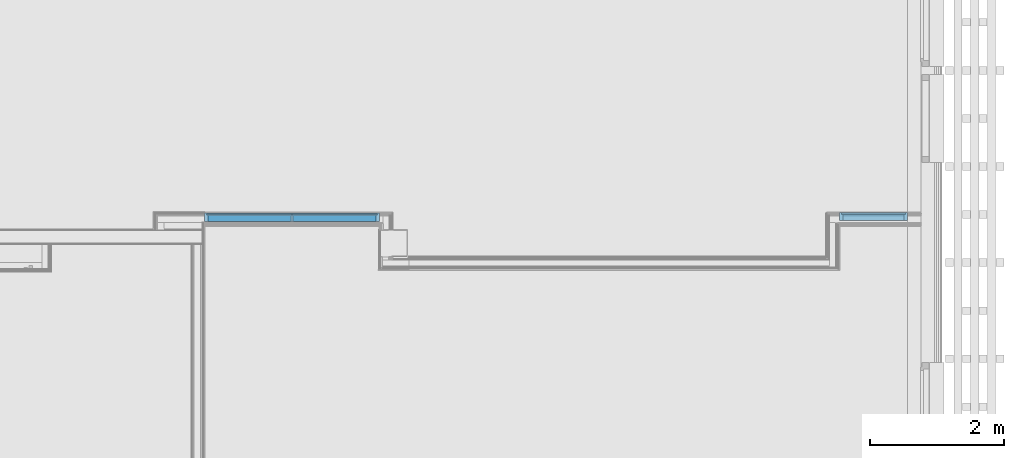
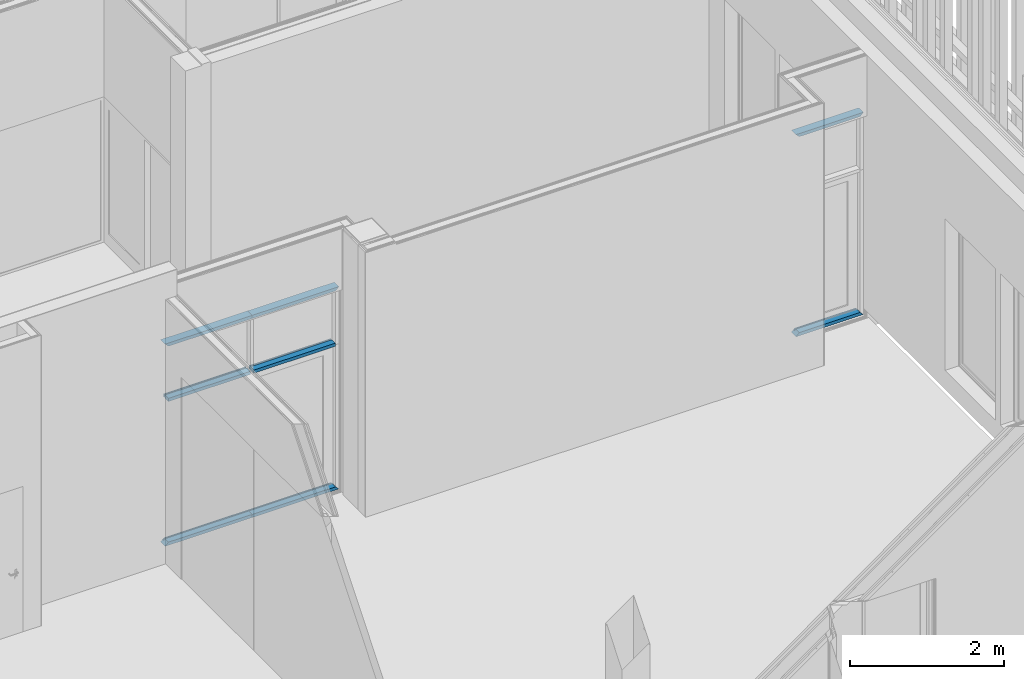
# One storey, part 89 of 260: 8 members, 2 elements without a shape of their own.
"""IFC2X3 building model written with IfcOpenShell, lengths in millimetres."""

from ifc_helpers import new_model, entity, si_unit, converted_unit, derived_unit, money_unit, direction, frame, origin_with_axes, place, context, subcontext, project, spatial, faceted_brep, material, type_object, element, aggregate, save


model = new_model("IFC2X3")

# Units and contexts
model_context = context("Model", 3, precision=0.01, world=origin_with_axes(), true_north=direction((0.0, 1.0)))
body_context = subcontext(model_context, "Body", "Model", "MODEL_VIEW")
ifc_project = project(units=[si_unit("LENGTHUNIT", "METRE", prefix="MILLI"), si_unit("AREAUNIT", "SQUARE_METRE"), si_unit("VOLUMEUNIT", "CUBIC_METRE"), converted_unit("PLANEANGLEUNIT", "DEGREE", entity("IfcPlaneAngleMeasure", 0.0174532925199), si_unit("PLANEANGLEUNIT", "RADIAN"), dimensions=[0, 0, 0, 0, 0, 0, 0]), money_unit("EUR"), converted_unit("TIMEUNIT", "Year", entity("IfcTimeMeasure", 31556926.0), si_unit("TIMEUNIT", "SECOND"), dimensions=[0, 0, 1, 0, 0, 0, 0]), si_unit("MASSUNIT", "GRAM", prefix="KILO"), si_unit("THERMODYNAMICTEMPERATUREUNIT", "DEGREE_CELSIUS"), si_unit("LUMINOUSINTENSITYUNIT", "LUMEN"), si_unit("ENERGYUNIT", "JOULE", prefix="MEGA"), derived_unit("THERMALCONDUCTANCEUNIT", [(si_unit("POWERUNIT", "WATT"), 1), (si_unit("LENGTHUNIT", "METRE"), -1), (si_unit("THERMODYNAMICTEMPERATUREUNIT", "KELVIN"), -1)]), derived_unit("SPECIFICHEATCAPACITYUNIT", [(si_unit("ENERGYUNIT", "JOULE"), 1), (si_unit("MASSUNIT", "GRAM", prefix="KILO"), -1), (si_unit("THERMODYNAMICTEMPERATUREUNIT", "KELVIN"), -1)]), derived_unit("MASSDENSITYUNIT", [(si_unit("MASSUNIT", "GRAM", prefix="KILO"), 1), (si_unit("VOLUMEUNIT", "CUBIC_METRE"), -1)])], contexts=[model_context])

# Site, building, storey
site_placement = place(None, origin_with_axes())
site = spatial("IfcSite", under=ifc_project, at=site_placement, Name="Kolde pst 67a", CompositionType="ELEMENT")
building_placement = place(site_placement, origin_with_axes())
building = spatial("IfcBuilding", under=site, at=building_placement, Name="Riigigümnaasium", CompositionType="ELEMENT")
storey_placement = place(building_placement, origin_with_axes())
storey = spatial("IfcBuildingStorey", under=building, at=storey_placement, Name="1. korrus", CompositionType="ELEMENT", Elevation=0.0)

# Curtain wall, members
curtain_wall_type = type_object("IfcCurtainWallType", Name="Curtain Wall Type", PredefinedType="NOTDEFINED")
curtain_wall_1_placement = place(storey_placement, frame((75080.0012187, 24675.0981117, -4.39663905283e-06), z_axis=(0.0, 0.0, 1.0), x_axis=(1.0, 0.0, 0.0)))
curtain_wall_1 = element("IfcCurtainWall", 1, at=curtain_wall_1_placement, inside=storey, type_object=curtain_wall_type, Name="KLAASSEIN")
ifc_material = material(Name="_METALL - alumiinium")
member_type_1 = type_object("IfcMemberType", Name="Boundary Frame 50 x 120", PredefinedType="MEMBER")
member_1_placement = place(curtain_wall_1_placement, frame((1300.00084434, 0.0, 0.0), z_axis=(-1.0, 0.0, 0.0), x_axis=(0.0, 0.0, 1.0)))
member_1 = element("IfcMember", 2, at=member_1_placement, type_object=member_type_1, material=ifc_material, Name="RF RAAM SERV-097", ObjectType="MEMBER", context=body_context, shape_type="Brep", body=[
    faceted_brep([(30.0, 10.0, 30.0), (30.0, 10.0, 1300.0), (30.0, -10.0, 1300.0), (30.0, -10.0, 30.0), (20.0, 10.0, 20.0), (20.0, 10.0, 1300.0), (20.0, -10.0, 1300.0), (20.0, -10.0, 20.0)], [[[0, 1, 2, 3]], [[4, 5, 1, 0]], [[2, 1, 5, 6]], [[3, 2, 6, 7]], [[3, 7, 4, 0]], [[7, 6, 5, 4]]]),
    faceted_brep([(20.0, 10.0, 20.0), (20.0, 10.0, 1300.0), (20.0, -10.0, 1300.0), (20.0, -10.0, 20.0), (0.0, 10.0, 0.0), (0.0, 10.0, 1300.0), (0.0, -10.0, 1300.0), (0.0, -10.0, 0.0)], [[[0, 1, 2, 3]], [[4, 5, 1, 0]], [[2, 1, 5, 6]], [[3, 2, 6, 7]], [[3, 7, 4, 0]], [[7, 6, 5, 4]]]),
    faceted_brep([(50.0, -10.0, 50.0), (50.0, -10.0, 1300.0), (50.0, -100.0, 1300.0), (50.0, -100.0, 50.0), (0.0, -10.0, 0.0), (0.0, -10.0, 1300.0), (0.0, -100.0, 1300.0), (0.0, -100.0, 0.0)], [[[0, 1, 2, 3]], [[4, 5, 1, 0]], [[2, 1, 5, 6]], [[3, 2, 6, 7]], [[3, 7, 4, 0]], [[7, 6, 5, 4]]]),
    faceted_brep([(0.0, 10.0, 0.0), (0.0, 10.0, 1300.0), (0.0, 20.0, 1300.0), (0.0, 20.0, 0.0), (50.0, 10.0, 50.0), (50.0, 10.0, 1300.0), (50.0, 20.0, 1300.0), (50.0, 20.0, 50.0)], [[[0, 1, 2, 3]], [[4, 5, 1, 0]], [[2, 1, 5, 6]], [[3, 2, 6, 7]], [[3, 7, 4, 0]], [[7, 6, 5, 4]]]),
])
member_2_placement = place(curtain_wall_1_placement, frame((0.000844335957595, 0.0, 0.0), z_axis=(-1.0, 0.0, 0.0), x_axis=(0.0, 0.0, 1.0)))
member_2 = element("IfcMember", 3, at=member_2_placement, type_object=member_type_1, material=ifc_material, Name="RF RAAM SERV-098", ObjectType="MEMBER", context=body_context, shape_type="Brep", body=[
    faceted_brep([(30.0, -10.0, 0.0), (30.0, 10.0, 0.0), (30.0, 10.0, 1270.00253301), (30.0, -10.0, 1270.00253301), (20.0, -10.0, 0.0), (20.0, 10.0, 0.0), (20.0, 10.0, 1280.00253301), (20.0, -10.0, 1280.00253301)], [[[0, 1, 2, 3]], [[0, 4, 5, 1]], [[1, 5, 6, 2]], [[3, 2, 6, 7]], [[4, 0, 3, 7]], [[5, 4, 7, 6]]]),
    faceted_brep([(20.0, -10.0, 0.0), (20.0, 10.0, 0.0), (20.0, 10.0, 1280.00253301), (20.0, -10.0, 1280.00253301), (0.0, -10.0, 0.0), (0.0, 10.0, 0.0), (0.0, 10.0, 1300.00253301), (0.0, -10.0, 1300.00253301)], [[[0, 1, 2, 3]], [[0, 4, 5, 1]], [[1, 5, 6, 2]], [[3, 2, 6, 7]], [[4, 0, 3, 7]], [[5, 4, 7, 6]]]),
    faceted_brep([(50.0, -100.0, 0.0), (50.0, -10.0, 0.0), (50.0, -10.0, 1250.00253301), (50.0, -100.0, 1250.00253301), (0.0, -100.0, 0.0), (0.0, -10.0, 0.0), (0.0, -10.0, 1300.00253301), (0.0, -100.0, 1300.00253301)], [[[0, 1, 2, 3]], [[0, 4, 5, 1]], [[1, 5, 6, 2]], [[3, 2, 6, 7]], [[4, 0, 3, 7]], [[5, 4, 7, 6]]]),
    faceted_brep([(0.0, 20.0, 0.0), (0.0, 10.0, 0.0), (0.0, 10.0, 1300.00253301), (0.0, 20.0, 1300.00253301), (50.0, 20.0, 0.0), (50.0, 10.0, 0.0), (50.0, 10.0, 1250.00253301), (50.0, 20.0, 1250.00253301)], [[[0, 1, 2, 3]], [[0, 4, 5, 1]], [[1, 5, 6, 2]], [[3, 2, 6, 7]], [[4, 0, 3, 7]], [[5, 4, 7, 6]]]),
])
member_3_placement = place(curtain_wall_1_placement, frame((0.000844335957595, 0.0, 3199.99999078), z_axis=(-1.0, 0.0, 0.0), x_axis=(0.0, 0.0, 1.0)))
member_3 = element("IfcMember", 4, at=member_3_placement, type_object=member_type_1, material=ifc_material, Name="RF RAAM SERV-101", ObjectType="MEMBER", context=body_context, shape_type="Brep", body=[
    faceted_brep([(-30.0, -10.0, 0.0), (-30.0, -10.0, 1270.00253301), (-30.0, 10.0, 1270.00253301), (-30.0, 10.0, 0.0), (-20.0, -10.0, 0.0), (-20.0, -10.0, 1280.00253301), (-20.0, 10.0, 1280.00253301), (-20.0, 10.0, 0.0)], [[[0, 1, 2, 3]], [[4, 5, 1, 0]], [[1, 5, 6, 2]], [[3, 2, 6, 7]], [[0, 3, 7, 4]], [[7, 6, 5, 4]]]),
    faceted_brep([(-20.0, -10.0, 0.0), (-20.0, -10.0, 1280.00253301), (-20.0, 10.0, 1280.00253301), (-20.0, 10.0, 0.0), (0.0, -10.0, 0.0), (0.0, -10.0, 1300.00253301), (0.0, 10.0, 1300.00253301), (0.0, 10.0, 0.0)], [[[0, 1, 2, 3]], [[4, 5, 1, 0]], [[1, 5, 6, 2]], [[3, 2, 6, 7]], [[0, 3, 7, 4]], [[7, 6, 5, 4]]]),
    faceted_brep([(-50.0, -100.0, 0.0), (-50.0, -100.0, 1250.00253301), (-50.0, -10.0, 1250.00253301), (-50.0, -10.0, 0.0), (0.0, -100.0, 0.0), (0.0, -100.0, 1300.00253301), (0.0, -10.0, 1300.00253301), (0.0, -10.0, 0.0)], [[[0, 1, 2, 3]], [[4, 5, 1, 0]], [[1, 5, 6, 2]], [[3, 2, 6, 7]], [[0, 3, 7, 4]], [[7, 6, 5, 4]]]),
    faceted_brep([(0.0, 20.0, 0.0), (0.0, 20.0, 1300.00253301), (0.0, 10.0, 1300.00253301), (0.0, 10.0, 0.0), (-50.0, 20.0, 0.0), (-50.0, 20.0, 1250.00253301), (-50.0, 10.0, 1250.00253301), (-50.0, 10.0, 0.0)], [[[0, 1, 2, 3]], [[4, 5, 1, 0]], [[1, 5, 6, 2]], [[3, 2, 6, 7]], [[0, 3, 7, 4]], [[7, 6, 5, 4]]]),
])
member_4_placement = place(curtain_wall_1_placement, frame((1300.00084434, 0.0, 3199.99999078), z_axis=(-1.0, 0.0, 0.0), x_axis=(0.0, 0.0, 1.0)))
member_4 = element("IfcMember", 5, at=member_4_placement, type_object=member_type_1, material=ifc_material, Name="RF RAAM SERV-102", ObjectType="MEMBER", context=body_context, shape_type="Brep", body=[
    faceted_brep([(-30.0, 10.0, 30.0), (-30.0, -10.0, 30.0), (-30.0, -10.0, 1300.0), (-30.0, 10.0, 1300.0), (-20.0, 10.0, 20.0), (-20.0, -10.0, 20.0), (-20.0, -10.0, 1300.0), (-20.0, 10.0, 1300.0)], [[[0, 1, 2, 3]], [[1, 0, 4, 5]], [[1, 5, 6, 2]], [[2, 6, 7, 3]], [[4, 0, 3, 7]], [[5, 4, 7, 6]]]),
    faceted_brep([(-20.0, 10.0, 20.0), (-20.0, -10.0, 20.0), (-20.0, -10.0, 1300.0), (-20.0, 10.0, 1300.0), (0.0, 10.0, 0.0), (0.0, -10.0, 0.0), (0.0, -10.0, 1300.0), (0.0, 10.0, 1300.0)], [[[0, 1, 2, 3]], [[1, 0, 4, 5]], [[1, 5, 6, 2]], [[2, 6, 7, 3]], [[4, 0, 3, 7]], [[5, 4, 7, 6]]]),
    faceted_brep([(-50.0, -10.0, 50.0), (-50.0, -100.0, 50.0), (-50.0, -100.0, 1300.0), (-50.0, -10.0, 1300.0), (0.0, -10.0, 0.0), (0.0, -100.0, 0.0), (0.0, -100.0, 1300.0), (0.0, -10.0, 1300.0)], [[[0, 1, 2, 3]], [[1, 0, 4, 5]], [[1, 5, 6, 2]], [[2, 6, 7, 3]], [[4, 0, 3, 7]], [[5, 4, 7, 6]]]),
    faceted_brep([(0.0, 10.0, 0.0), (0.0, 20.0, 0.0), (0.0, 20.0, 1300.0), (0.0, 10.0, 1300.0), (-50.0, 10.0, 50.0), (-50.0, 20.0, 50.0), (-50.0, 20.0, 1300.0), (-50.0, 10.0, 1300.0)], [[[0, 1, 2, 3]], [[1, 0, 4, 5]], [[1, 5, 6, 2]], [[2, 6, 7, 3]], [[4, 0, 3, 7]], [[5, 4, 7, 6]]]),
])

curtain_wall_2_placement = place(storey_placement, frame((83735.0006955, 24688.0768619, -4.19329628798e-05), z_axis=(0.0, 0.0, 1.0), x_axis=(1.0, 0.0, 0.0)))
curtain_wall_2 = element("IfcCurtainWall", 6, at=curtain_wall_2_placement, inside=storey, type_object=curtain_wall_type, Name="KLAASSEIN")
member_5_placement = place(curtain_wall_2_placement, frame((504.998632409, 0.0, 3.7536323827e-05), z_axis=(-1.0, 0.0, 0.0), x_axis=(0.0, 0.0, 1.0)))
member_5 = element("IfcMember", 7, at=member_5_placement, type_object=member_type_1, material=ifc_material, Name="RF RAAM SERV-097", ObjectType="MEMBER", context=body_context, shape_type="Brep", body=[
    faceted_brep([(30.0, 10.0, 30.0), (30.0, 10.0, 979.997264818), (30.0, -10.0, 979.997264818), (30.0, -10.0, 30.0), (20.0, 10.0, 20.0), (20.0, 10.0, 989.997264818), (20.0, -10.0, 989.997264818), (20.0, -10.0, 20.0)], [[[0, 1, 2, 3]], [[4, 5, 1, 0]], [[2, 1, 5, 6]], [[3, 2, 6, 7]], [[3, 7, 4, 0]], [[7, 6, 5, 4]]]),
    faceted_brep([(20.0, 10.0, 20.0), (20.0, 10.0, 989.997264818), (20.0, -10.0, 989.997264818), (20.0, -10.0, 20.0), (0.0, 10.0, 0.0), (0.0, 10.0, 1009.99726482), (0.0, -10.0, 1009.99726482), (0.0, -10.0, 0.0)], [[[0, 1, 2, 3]], [[4, 5, 1, 0]], [[2, 1, 5, 6]], [[3, 2, 6, 7]], [[3, 7, 4, 0]], [[7, 6, 5, 4]]]),
    faceted_brep([(50.0, -10.0, 50.0), (50.0, -10.0, 959.997264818), (50.0, -100.0, 959.997264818), (50.0, -100.0, 50.0), (0.0, -10.0, 0.0), (0.0, -10.0, 1009.99726482), (0.0, -100.0, 1009.99726482), (0.0, -100.0, 0.0)], [[[0, 1, 2, 3]], [[4, 5, 1, 0]], [[2, 1, 5, 6]], [[3, 2, 6, 7]], [[3, 7, 4, 0]], [[7, 6, 5, 4]]]),
    faceted_brep([(0.0, 10.0, 0.0), (0.0, 10.0, 1009.99726482), (0.0, 20.0, 1009.99726482), (0.0, 20.0, 0.0), (50.0, 10.0, 50.0), (50.0, 10.0, 959.997264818), (50.0, 20.0, 959.997264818), (50.0, 20.0, 50.0)], [[[0, 1, 2, 3]], [[4, 5, 1, 0]], [[2, 1, 5, 6]], [[3, 2, 6, 7]], [[3, 7, 4, 0]], [[7, 6, 5, 4]]]),
])
member_6_placement = place(curtain_wall_2_placement, frame((504.998632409, 0.0, 3200.00002831), z_axis=(-1.0, 0.0, 0.0), x_axis=(0.0, 0.0, 1.0)))
member_6 = element("IfcMember", 8, at=member_6_placement, type_object=member_type_1, material=ifc_material, Name="RF RAAM SERV-100", ObjectType="MEMBER", context=body_context, shape_type="Brep", body=[
    faceted_brep([(-30.0, 10.0, 30.0), (-30.0, -10.0, 30.0), (-30.0, -10.0, 979.997264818), (-30.0, 10.0, 979.997264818), (-20.0, 10.0, 20.0), (-20.0, -10.0, 20.0), (-20.0, -10.0, 989.997264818), (-20.0, 10.0, 989.997264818)], [[[0, 1, 2, 3]], [[1, 0, 4, 5]], [[1, 5, 6, 2]], [[2, 6, 7, 3]], [[4, 0, 3, 7]], [[5, 4, 7, 6]]]),
    faceted_brep([(-20.0, 10.0, 20.0), (-20.0, -10.0, 20.0), (-20.0, -10.0, 989.997264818), (-20.0, 10.0, 989.997264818), (0.0, 10.0, 0.0), (0.0, -10.0, 0.0), (0.0, -10.0, 1009.99726482), (0.0, 10.0, 1009.99726482)], [[[0, 1, 2, 3]], [[1, 0, 4, 5]], [[1, 5, 6, 2]], [[2, 6, 7, 3]], [[4, 0, 3, 7]], [[5, 4, 7, 6]]]),
    faceted_brep([(-50.0, -10.0, 50.0), (-50.0, -100.0, 50.0), (-50.0, -100.0, 959.997264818), (-50.0, -10.0, 959.997264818), (0.0, -10.0, 0.0), (0.0, -100.0, 0.0), (0.0, -100.0, 1009.99726482), (0.0, -10.0, 1009.99726482)], [[[0, 1, 2, 3]], [[1, 0, 4, 5]], [[1, 5, 6, 2]], [[2, 6, 7, 3]], [[4, 0, 3, 7]], [[5, 4, 7, 6]]]),
    faceted_brep([(0.0, 10.0, 0.0), (0.0, 20.0, 0.0), (0.0, 20.0, 1009.99726482), (0.0, 10.0, 1009.99726482), (-50.0, 10.0, 50.0), (-50.0, 20.0, 50.0), (-50.0, 20.0, 959.997264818), (-50.0, 10.0, 959.997264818)], [[[0, 1, 2, 3]], [[1, 0, 4, 5]], [[1, 5, 6, 2]], [[2, 6, 7, 3]], [[4, 0, 3, 7]], [[5, 4, 7, 6]]]),
])
aggregate(curtain_wall_2, [member_5, member_6])

# Member
member_type_2 = type_object("IfcMemberType", Name="Transom Frame 50 x 125", PredefinedType="MEMBER")
member_7_placement = place(curtain_wall_1_placement, frame((1300.00084434, 0.0, 2300.0), z_axis=(-1.0, 0.0, 0.0), x_axis=(0.0, 0.0, 1.0)))
member_7 = element("IfcMember", 9, at=member_7_placement, type_object=member_type_2, material=ifc_material, Name="RF RAAM HOR-405", ObjectType="MEMBER", context=body_context, shape_type="Brep", body=[
    faceted_brep([(5.0, 10.0, 50.0), (5.0, 10.0, 1275.0), (5.0, -10.0, 1275.0), (5.0, -10.0, 50.0), (-5.0, 10.0, 50.0), (-5.0, 10.0, 1275.0), (-5.0, -10.0, 1275.0), (-5.0, -10.0, 50.0)], [[[0, 1, 2, 3]], [[4, 5, 1, 0]], [[2, 1, 5, 6]], [[3, 2, 6, 7]], [[3, 7, 4, 0]], [[7, 6, 5, 4]]]),
    faceted_brep([(25.0, -10.0, 50.0), (25.0, -10.0, 1275.0), (25.0, -100.0, 1275.0), (25.0, -100.0, 50.0), (-25.0, -10.0, 50.0), (-25.0, -10.0, 1275.0), (-25.0, -100.0, 1275.0), (-25.0, -100.0, 50.0)], [[[0, 1, 2, 3]], [[4, 5, 1, 0]], [[2, 1, 5, 6]], [[3, 2, 6, 7]], [[3, 7, 4, 0]], [[7, 6, 5, 4]]]),
    faceted_brep([(-25.0, 10.0, 50.0), (-25.0, 10.0, 1275.0), (-25.0, 25.0, 1275.0), (-25.0, 25.0, 50.0), (25.0, 10.0, 50.0), (25.0, 10.0, 1275.0), (25.0, 25.0, 1275.0), (25.0, 25.0, 50.0)], [[[0, 1, 2, 3]], [[4, 5, 1, 0]], [[2, 1, 5, 6]], [[3, 2, 6, 7]], [[3, 7, 4, 0]], [[7, 6, 5, 4]]]),
])

member_8_placement = place(curtain_wall_1_placement, frame((0.000844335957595, 0.0, 2300.0), z_axis=(-1.0, 0.0, 0.0), x_axis=(0.0, 0.0, 1.0)))
member_8 = element("IfcMember", 10, at=member_8_placement, type_object=member_type_2, material=ifc_material, Name="RF RAAM HOR-404", ObjectType="MEMBER", context=body_context, shape_type="Brep", body=[
    faceted_brep([(5.0, 10.0, 25.0), (5.0, 10.0, 1250.00253301), (5.0, -10.0, 1250.00253301), (5.0, -10.0, 25.0), (-5.0, 10.0, 25.0), (-5.0, 10.0, 1250.00253301), (-5.0, -10.0, 1250.00253301), (-5.0, -10.0, 25.0)], [[[0, 1, 2, 3]], [[4, 5, 1, 0]], [[2, 1, 5, 6]], [[3, 2, 6, 7]], [[3, 7, 4, 0]], [[7, 6, 5, 4]]]),
    faceted_brep([(25.0, -10.0, 25.0), (25.0, -10.0, 1250.00253301), (25.0, -100.0, 1250.00253301), (25.0, -100.0, 25.0), (-25.0, -10.0, 25.0), (-25.0, -10.0, 1250.00253301), (-25.0, -100.0, 1250.00253301), (-25.0, -100.0, 25.0)], [[[0, 1, 2, 3]], [[4, 5, 1, 0]], [[2, 1, 5, 6]], [[3, 2, 6, 7]], [[3, 7, 4, 0]], [[7, 6, 5, 4]]]),
    faceted_brep([(-25.0, 10.0, 25.0), (-25.0, 10.0, 1250.00253301), (-25.0, 25.0, 1250.00253301), (-25.0, 25.0, 25.0), (25.0, 10.0, 25.0), (25.0, 10.0, 1250.00253301), (25.0, 25.0, 1250.00253301), (25.0, 25.0, 25.0)], [[[0, 1, 2, 3]], [[4, 5, 1, 0]], [[2, 1, 5, 6]], [[3, 2, 6, 7]], [[3, 7, 4, 0]], [[7, 6, 5, 4]]]),
])

aggregate(curtain_wall_1, [member_1, member_2, member_3, member_7, member_8, member_4])

save(model, "model.ifc")
